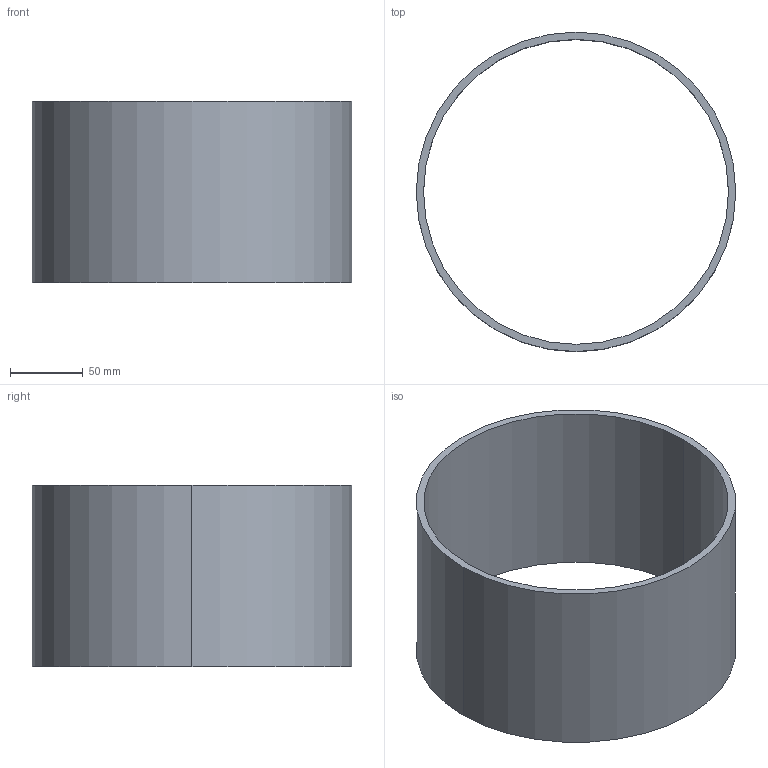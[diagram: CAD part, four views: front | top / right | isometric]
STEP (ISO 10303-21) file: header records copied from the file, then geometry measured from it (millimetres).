
FILE_DESCRIPTION(('CATIA V5 STEP Exchange'),'2;1');
FILE_NAME('C:\_Andres\UNIVERSIDAD\IQS\ASIGNATURAS\DAO\EXF\EXF-15161c\1original\Giménez_Álvarez-Sarandés_Ej07-tabla_v10.stp','2016-03-04T21:16:34+00:00',('none'),('none'),'CATIA Version 5 Release 20 SP 1 (IN-10)','CATIA V5 STEP AP203','none');
FILE_SCHEMA(('CONFIG_CONTROL_DESIGN'));
Length unit declared in the file: millimetre
Products named in the file (1): Giménez_Álvarez-Sarandés_Ej07-tabla_v10
Bounding box: 220 x 220 x 125 mm (x, y, z)
Volume: 422151.5 mm3; surface area: 175615 mm2
Topology: 1 solids, 1 shells, 6 faces, 13 edges, 10 vertices
Faces by surface type: cylinder 4, plane 2
Entity records: 208 total; most frequent: CARTESIAN_POINT 29, ORIENTED_EDGE 24, DIRECTION 23, AXIS2_PLACEMENT_3D 14, EDGE_CURVE 12, CIRCLE 8, EDGE_LOOP 8, VERTEX_POINT 8
